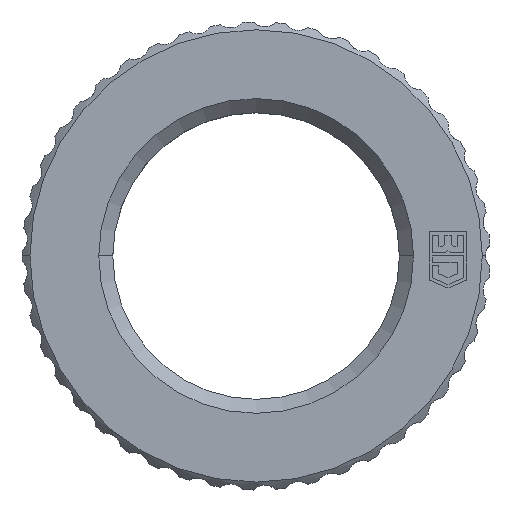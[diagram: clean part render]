
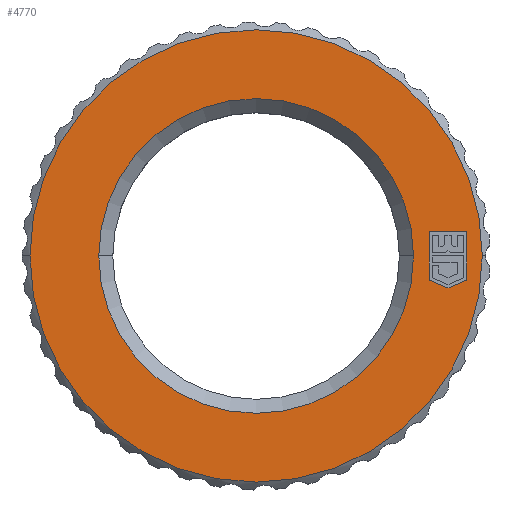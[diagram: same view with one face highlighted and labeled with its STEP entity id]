
A CAD part, top view. The second image highlights one B-rep face of the part: STEP entity #4770.
In plain terms, the highlighted planar face has unit normal (0, 0, 1).
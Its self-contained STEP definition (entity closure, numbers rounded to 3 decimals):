
#384 = ORIENTED_EDGE ( 'NONE', *, *, #385, .T. ) ;
#385 = EDGE_CURVE ( 'NONE', #4783, #386, #3968, .T. ) ;
#386 = VERTEX_POINT ( 'NONE', #4026 ) ;
#387 = ORIENTED_EDGE ( 'NONE', *, *, #388, .T. ) ;
#388 = EDGE_CURVE ( 'NONE', #386, #389, #4025, .T. ) ;
#389 = VERTEX_POINT ( 'NONE', #4021 ) ;
#390 = ORIENTED_EDGE ( 'NONE', *, *, #391, .T. ) ;
#391 = EDGE_CURVE ( 'NONE', #389, #392, #4020, .T. ) ;
#392 = VERTEX_POINT ( 'NONE', #4016 ) ;
#393 = ORIENTED_EDGE ( 'NONE', *, *, #394, .T. ) ;
#394 = EDGE_CURVE ( 'NONE', #392, #4782, #4015, .T. ) ;
#1093 = FACE_BOUND ( 'NONE', #4775, .T. ) ;
#1365 = FACE_BOUND ( 'NONE', #4779, .T. ) ;
#1580 = FACE_OUTER_BOUND ( 'NONE', #4771, .T. ) ;
#1908 = CARTESIAN_POINT ( 'NONE',  ( 11.085, -1.549, 0. ) ) ;
#1909 = CARTESIAN_POINT ( 'NONE',  ( 12.3, -2.052, 0. ) ) ;
#1910 = DIRECTION ( 'NONE',  ( -0.924, 0.383, 0. ) ) ;
#1911 = VECTOR ( 'NONE', #1910, 1000. ) ;
#1912 = DIRECTION ( 'NONE',  ( 1., 0., 0. ) ) ;
#1913 = DIRECTION ( 'NONE',  ( 0., 0., 1. ) ) ;
#1914 = CARTESIAN_POINT ( 'NONE',  ( 0., 0., 0. ) ) ;
#1915 = AXIS2_PLACEMENT_3D ( 'NONE', #1914, #1913, #1912 ) ;
#1916 = CIRCLE ( 'NONE', #1915, 14.5 ) ;
#1957 = CARTESIAN_POINT ( 'NONE',  ( 12.3, -2.052, 0. ) ) ;
#1958 = LINE ( 'NONE', #1957, #1911 ) ;
#1959 = DIRECTION ( 'NONE',  ( -1., 0., 0. ) ) ;
#1960 = DIRECTION ( 'NONE',  ( 0., 0., -1. ) ) ;
#1961 = CARTESIAN_POINT ( 'NONE',  ( 0., 0., 0. ) ) ;
#1962 = AXIS2_PLACEMENT_3D ( 'NONE', #1961, #1960, #1959 ) ;
#1963 = CIRCLE ( 'NONE', #1962, 10.088 ) ;
#1964 = DIRECTION ( 'NONE',  ( -1., 0., 0. ) ) ;
#1965 = DIRECTION ( 'NONE',  ( 0., 0., -1. ) ) ;
#1966 = CARTESIAN_POINT ( 'NONE',  ( 0., 0., 0. ) ) ;
#1980 = AXIS2_PLACEMENT_3D ( 'NONE', #1966, #1965, #1964 ) ;
#1981 = PLANE ( 'NONE',  #1980 ) ;
#2114 = CARTESIAN_POINT ( 'NONE',  ( 10.088, 0., 0. ) ) ;
#2115 = DIRECTION ( 'NONE',  ( -1., 0., 0. ) ) ;
#2116 = DIRECTION ( 'NONE',  ( 0., 0., -1. ) ) ;
#2155 = CARTESIAN_POINT ( 'NONE',  ( 0., 0., 0. ) ) ;
#2156 = AXIS2_PLACEMENT_3D ( 'NONE', #2155, #2116, #2115 ) ;
#2157 = CIRCLE ( 'NONE', #2156, 10.088 ) ;
#2180 = CARTESIAN_POINT ( 'NONE',  ( -14.5, 0., 0. ) ) ;
#2288 = CARTESIAN_POINT ( 'NONE',  ( -10.088, 0., 0. ) ) ;
#2310 = CARTESIAN_POINT ( 'NONE',  ( 14.5, 0., 0. ) ) ;
#2311 = DIRECTION ( 'NONE',  ( 1., 0., 0. ) ) ;
#2312 = DIRECTION ( 'NONE',  ( 0., 0., 1. ) ) ;
#2313 = CARTESIAN_POINT ( 'NONE',  ( 0., 0., 0. ) ) ;
#2314 = AXIS2_PLACEMENT_3D ( 'NONE', #2313, #2312, #2311 ) ;
#2315 = CIRCLE ( 'NONE', #2314, 14.5 ) ;
#3967 = CARTESIAN_POINT ( 'NONE',  ( 11.085, -1.549, 0. ) ) ;
#3968 = LINE ( 'NONE', #3967, #4028 ) ;
#4012 = DIRECTION ( 'NONE',  ( -0.924, -0.383, 0. ) ) ;
#4013 = VECTOR ( 'NONE', #4012, 1000. ) ;
#4014 = CARTESIAN_POINT ( 'NONE',  ( 12.3, -2.052, 0. ) ) ;
#4015 = LINE ( 'NONE', #4014, #4013 ) ;
#4016 = CARTESIAN_POINT ( 'NONE',  ( 13.515, -1.549, 0. ) ) ;
#4017 = DIRECTION ( 'NONE',  ( 0., -1., 0. ) ) ;
#4018 = VECTOR ( 'NONE', #4017, 1000. ) ;
#4019 = CARTESIAN_POINT ( 'NONE',  ( 13.515, 1.548, 0. ) ) ;
#4020 = LINE ( 'NONE', #4019, #4018 ) ;
#4021 = CARTESIAN_POINT ( 'NONE',  ( 13.515, 1.548, 0. ) ) ;
#4022 = DIRECTION ( 'NONE',  ( 1., 0., 0. ) ) ;
#4023 = VECTOR ( 'NONE', #4022, 1000. ) ;
#4024 = CARTESIAN_POINT ( 'NONE',  ( 11.085, 1.548, 0. ) ) ;
#4025 = LINE ( 'NONE', #4024, #4023 ) ;
#4026 = CARTESIAN_POINT ( 'NONE',  ( 11.085, 1.548, 0. ) ) ;
#4027 = DIRECTION ( 'NONE',  ( 0., 1., 0. ) ) ;
#4028 = VECTOR ( 'NONE', #4027, 1000. ) ;
#4770 = ADVANCED_FACE ( 'NONE', ( #1580, #1093, #1365 ), #1981, .F. ) ;
#4771 = EDGE_LOOP ( 'NONE', ( #4772, #4774 ) ) ;
#4772 = ORIENTED_EDGE ( 'NONE', *, *, #4773, .T. ) ;
#4773 = EDGE_CURVE ( 'NONE', #4962, #4904, #1916, .T. ) ;
#4774 = ORIENTED_EDGE ( 'NONE', *, *, #4903, .T. ) ;
#4775 = EDGE_LOOP ( 'NONE', ( #4776, #4777 ) ) ;
#4776 = ORIENTED_EDGE ( 'NONE', *, *, #4885, .T. ) ;
#4777 = ORIENTED_EDGE ( 'NONE', *, *, #4778, .T. ) ;
#4778 = EDGE_CURVE ( 'NONE', #4918, #4886, #1963, .T. ) ;
#4779 = EDGE_LOOP ( 'NONE', ( #4780, #384, #387, #390, #393 ) ) ;
#4780 = ORIENTED_EDGE ( 'NONE', *, *, #4781, .T. ) ;
#4781 = EDGE_CURVE ( 'NONE', #4782, #4783, #1958, .T. ) ;
#4782 = VERTEX_POINT ( 'NONE', #1909 ) ;
#4783 = VERTEX_POINT ( 'NONE', #1908 ) ;
#4885 = EDGE_CURVE ( 'NONE', #4886, #4918, #2157, .T. ) ;
#4886 = VERTEX_POINT ( 'NONE', #2114 ) ;
#4903 = EDGE_CURVE ( 'NONE', #4904, #4962, #2315, .T. ) ;
#4904 = VERTEX_POINT ( 'NONE', #2310 ) ;
#4918 = VERTEX_POINT ( 'NONE', #2288 ) ;
#4962 = VERTEX_POINT ( 'NONE', #2180 ) ;
